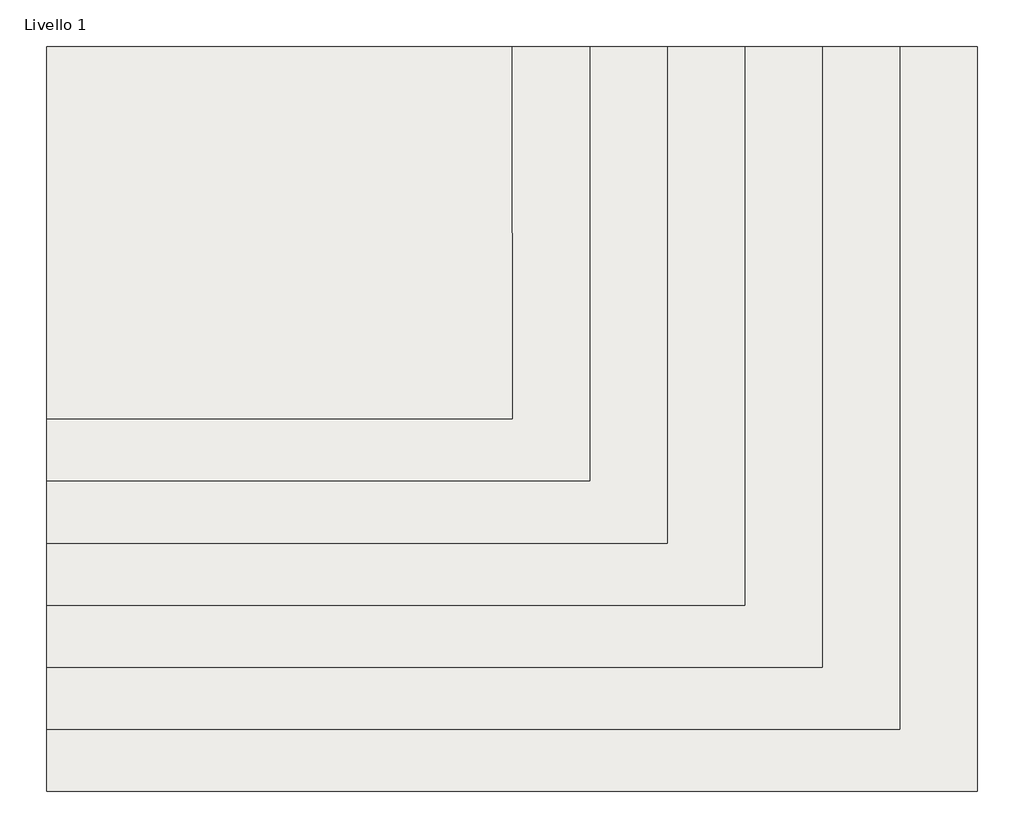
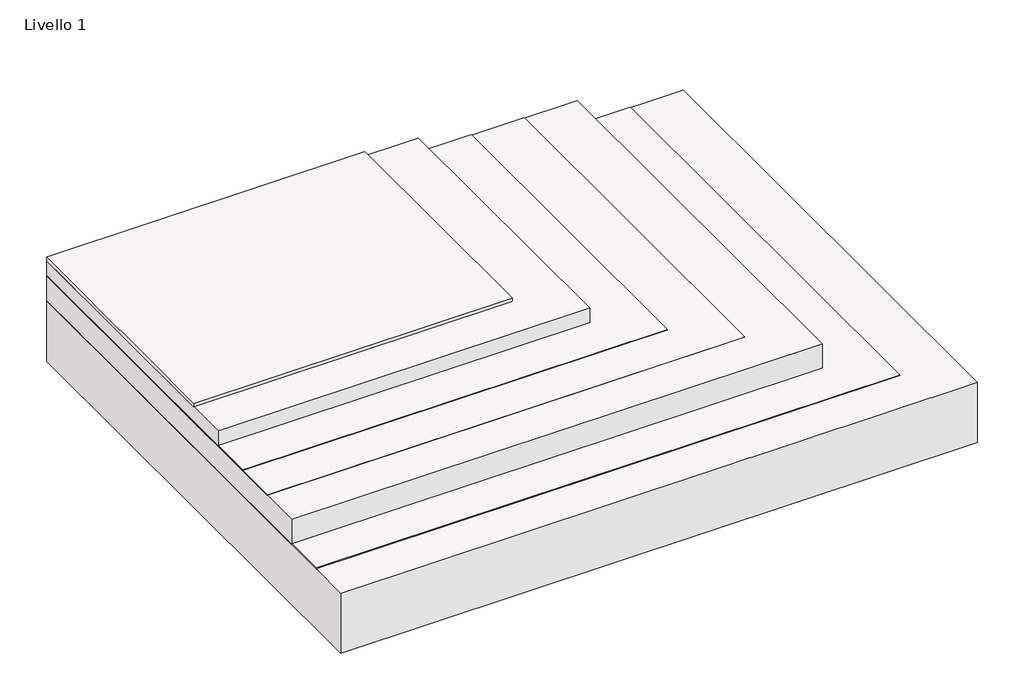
# One storey: 1 slab.
"""IFC4 building model written with IfcOpenShell, lengths in millimetres."""

from ifc_helpers import new_model, si_unit, frame, origin, place, context, project, spatial, polyline, outline, extrude, element, save

model = new_model("IFC4")

# Units and contexts
model_context = context("Model", 3, world=origin())
ifc_project = project(units=[si_unit("LENGTHUNIT", "METRE", prefix="MILLI")], contexts=[model_context])

# Site, building, storey
site = spatial("IfcSite", under=ifc_project)
building = spatial("IfcBuilding", under=site)
storey = spatial("IfcBuildingStorey", under=building, Name="Livello 1", Elevation=0.0)

# Slab
placement = place(None, origin())
element("IfcSlab", 1, ObjectType="POLYGLASS - TB3.1", at=placement, inside=storey, context=model_context, shape_type="SweptSolid", body=[
    extrude(outline(polyline([(1457.7963918, 1184.9122843), (207.7963918, 1184.9122843), (207.7963918, 2184.9122843), (1457.7963918, 2184.9122843), (1457.7963918, 1184.9122843)])), frame((0.0, 0.0, -15.0), z_axis=(0.0, 0.0, 1.0), x_axis=(1.0, 0.0, 0.0)), (0.0, 0.0, 1.0), 15.0),
    extrude(outline(polyline([(1666.1297251, 1018.2456176), (207.7963918, 1018.2456176), (207.7963918, 2184.9122843), (1666.1297251, 2184.9122843), (1666.1297251, 1018.2456176)])), frame((0.0, 0.0, -75.0), z_axis=(0.0, 0.0, 1.0), x_axis=(1.0, 0.0, 0.0)), (0.0, 0.0, 1.0), 60.0),
    extrude(outline(polyline([(1874.4630584, 851.578951), (207.7963918, 851.578951), (207.7963918, 2184.9122843), (1874.4630584, 2184.9122843), (1874.4630584, 851.578951)])), frame((0.0, 0.0, -77.3), z_axis=(0.0, 0.0, 1.0), x_axis=(1.0, 0.0, 0.0)), (0.0, 0.0, 1.0), 2.3),
    extrude(outline(polyline([(2082.7963918, 684.9122843), (207.7963918, 684.9122843), (207.7963918, 2184.9122843), (2082.7963918, 2184.9122843), (2082.7963918, 684.9122843)])), frame((0.0, 0.0, -79.1), z_axis=(0.0, 0.0, 1.0), x_axis=(1.0, 0.0, 0.0)), (0.0, 0.0, 1.0), 1.8),
    extrude(outline(polyline([(2291.1297251, 518.2456176), (207.7963918, 518.2456176), (207.7963918, 2184.9122843), (2291.1297251, 2184.9122843), (2291.1297251, 518.2456176)])), frame((0.0, 0.0, -179.1), z_axis=(0.0, 0.0, 1.0), x_axis=(1.0, 0.0, 0.0)), (0.0, 0.0, 1.0), 100.0),
    extrude(outline(polyline([(2499.4630584, 351.578951), (207.7963918, 351.578951), (207.7963918, 2184.9122843), (2499.4630584, 2184.9122843), (2499.4630584, 351.578951)])), frame((0.0, 0.0, -182.2), z_axis=(0.0, 0.0, 1.0), x_axis=(1.0, 0.0, 0.0)), (0.0, 0.0, 1.0), 3.1),
    extrude(outline(polyline([(2707.7963918, 184.9122843), (207.7963918, 184.9122843), (207.7963918, 2184.9122843), (2707.7963918, 2184.9122843), (2707.7963918, 184.9122843)])), frame((0.0, 0.0, -432.2), z_axis=(0.0, 0.0, 1.0), x_axis=(1.0, 0.0, 0.0)), (0.0, 0.0, 1.0), 250.0),
])

save(model, "model.ifc")
